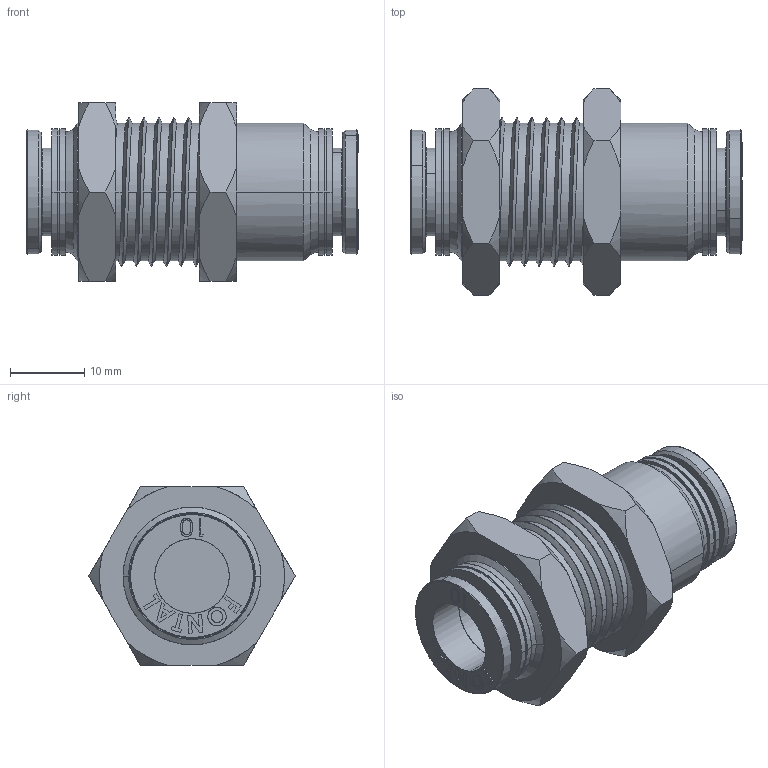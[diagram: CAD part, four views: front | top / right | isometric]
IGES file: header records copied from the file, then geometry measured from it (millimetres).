
Start section: SolidWorks IGES file using analytic representation for surfaces
Global section: file name: D:\Custom\3D繪製\ADDITIONAL\FPM\FPM10.IGS, ; native system: SolidWorks 2014; preprocessor: SolidWorks 2014; author: Chieh_Lu; date: 160115.051314; units: millimetre
Bounding box: 44.6 x 27.71 x 24 mm (x, y, z)
Surface area: 7593.3 mm2 (no closed solid volume)
Topology: 0 solids, 0 shells, 300 faces, 4146 edges, 4146 vertices
Faces by surface type: bspline 210, revolution 90
